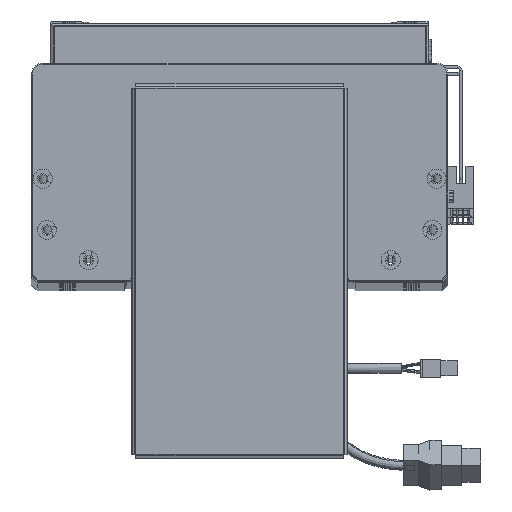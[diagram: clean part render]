
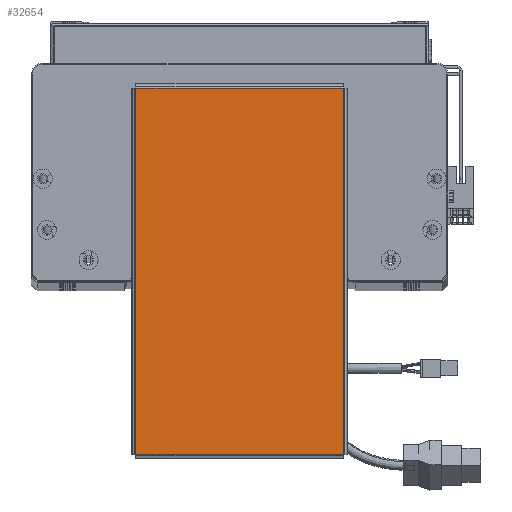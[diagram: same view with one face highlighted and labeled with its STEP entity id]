
A CAD part, top view. The second image highlights one B-rep face of the part: STEP entity #32654.
In plain terms, the highlighted planar face has unit normal (0, 0, 1).
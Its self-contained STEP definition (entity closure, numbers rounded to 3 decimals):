
#2902 = VERTEX_POINT ( 'NONE', #20072 ) ;
#4360 = CARTESIAN_POINT ( 'NONE',  ( -96.793, -54.763, 0. ) ) ;
#6109 = LINE ( 'NONE', #33325, #44703 ) ;
#6742 = DIRECTION ( 'NONE',  ( 0., 0., 1. ) ) ;
#12404 = VECTOR ( 'NONE', #57154, 1000. ) ;
#13078 = DIRECTION ( 'NONE',  ( 0., 1., 0. ) ) ;
#14627 = VERTEX_POINT ( 'NONE', #70402 ) ;
#20046 = VECTOR ( 'NONE', #13078, 1000. ) ;
#20072 = CARTESIAN_POINT ( 'NONE',  ( -96.763, -54.763, 0. ) ) ;
#24742 = FACE_OUTER_BOUND ( 'NONE', #64803, .T. ) ;
#24970 = VECTOR ( 'NONE', #65766, 1000. ) ;
#32014 = ORIENTED_EDGE ( 'NONE', *, *, #43246, .T. ) ;
#32654 = ADVANCED_FACE ( 'NONE', ( #24742 ), #45206, .T. ) ;
#33325 = CARTESIAN_POINT ( 'NONE',  ( -96.763, 54.793, 0. ) ) ;
#35275 = VERTEX_POINT ( 'NONE', #54198 ) ;
#35614 = EDGE_CURVE ( 'NONE', #48929, #35275, #41293, .T. ) ;
#36539 = EDGE_CURVE ( 'NONE', #14627, #48929, #64904, .T. ) ;
#39119 = LINE ( 'NONE', #4360, #24970 ) ;
#39972 = ORIENTED_EDGE ( 'NONE', *, *, #36539, .T. ) ;
#40310 = CARTESIAN_POINT ( 'NONE',  ( 0., 0., 0. ) ) ;
#40789 = CARTESIAN_POINT ( 'NONE',  ( 96.763, -54.793, 0. ) ) ;
#41293 = LINE ( 'NONE', #62856, #12404 ) ;
#43246 = EDGE_CURVE ( 'NONE', #35275, #2902, #6109, .T. ) ;
#43398 = CARTESIAN_POINT ( 'NONE',  ( 96.763, 54.763, 0. ) ) ;
#44112 = ORIENTED_EDGE ( 'NONE', *, *, #58255, .T. ) ;
#44703 = VECTOR ( 'NONE', #55437, 1000. ) ;
#45206 = PLANE ( 'NONE',  #67843 ) ;
#48929 = VERTEX_POINT ( 'NONE', #43398 ) ;
#54198 = CARTESIAN_POINT ( 'NONE',  ( -96.763, 54.763, 0. ) ) ;
#55437 = DIRECTION ( 'NONE',  ( 0., -1., 0. ) ) ;
#56297 = DIRECTION ( 'NONE',  ( 1., 0., 0. ) ) ;
#57154 = DIRECTION ( 'NONE',  ( -1., 0., 0. ) ) ;
#57920 = ORIENTED_EDGE ( 'NONE', *, *, #35614, .T. ) ;
#58255 = EDGE_CURVE ( 'NONE', #2902, #14627, #39119, .T. ) ;
#62856 = CARTESIAN_POINT ( 'NONE',  ( 96.793, 54.763, 0. ) ) ;
#64803 = EDGE_LOOP ( 'NONE', ( #44112, #39972, #57920, #32014 ) ) ;
#64904 = LINE ( 'NONE', #40789, #20046 ) ;
#65766 = DIRECTION ( 'NONE',  ( 1., 0., 0. ) ) ;
#67843 = AXIS2_PLACEMENT_3D ( 'NONE', #40310, #6742, #56297 ) ;
#70402 = CARTESIAN_POINT ( 'NONE',  ( 96.763, -54.763, 0. ) ) ;
